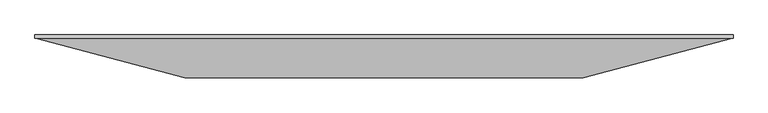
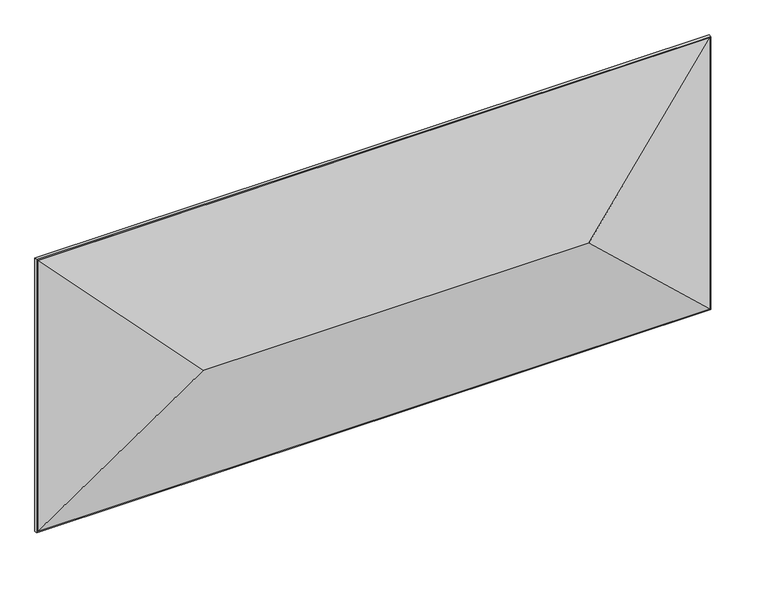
"""IFC4 building model written with IfcOpenShell, lengths in millimetres: proxy geometry, AERO^OFFICE 1_36x84 TABLE STYLE-WORKSURFACE."""

from ifc_helpers import new_model, si_unit, frame, origin, place, context, project, spatial, polyline, outline, extrude, faceted_brep, source, transform, mapped, element, save


def generic_models_ffb11fbf(model_context):
    return source(origin(), model_context, "Body", "SolidModel", [
        faceted_brep([(-1014.555968, 22.225, 404.955968), (-609.6, -86.2826246, 0.0), (-1014.555968, 22.225, -404.955968), (-609.6, -99.4306321, 0.0), (-1063.625, 22.225, 454.025), (-1063.625, 22.225, -454.025), (609.6, -86.2826246, 0.0), (1014.555968, 22.225, -404.955968), (1063.625, 22.225, -454.025), (609.6, -99.4306321, 0.0), (1014.555968, 22.225, 404.955968), (1063.625, 22.225, 454.025)], [[[0, 1, 2]], [[3, 4, 5]], [[1, 6, 7, 2]], [[8, 9, 3, 5]], [[6, 10, 7]], [[9, 8, 11]], [[4, 11, 8, 5], [0, 2, 7, 10]], [[9, 11, 4, 3]], [[10, 6, 1, 0]]]),
        extrude(outline(polyline([(1066.8, 22.225), (-1066.8, 22.225), (-1066.8, 31.75), (1066.8, 31.75), (1066.8, 22.225)])), frame((0.0, 0.0, -457.2), z_axis=(0.0, 0.0, 1.0), x_axis=(1.0, 0.0, 0.0)), (0.0, 0.0, 1.0), 914.4),
        extrude(outline(polyline([(1063.625, 22.225), (-1063.625, 22.225), (-1063.625, 31.75), (1063.625, 31.75), (1063.625, 22.225)])), frame((0.0, 0.0, -454.025), z_axis=(0.0, 0.0, 1.0), x_axis=(1.0, 0.0, 0.0)), (0.0, 0.0, 1.0), 908.05),
    ])


if __name__ == "__main__":
    model = new_model("IFC4")
    model_context = context("Model", 3, world=origin())
    ifc_project = project(units=[si_unit("LENGTHUNIT", "METRE", prefix="MILLI")], contexts=[model_context])
    site = spatial("IfcSite", under=ifc_project)
    building = spatial("IfcBuilding", under=site)
    placement = place(None, origin())
    generic_models_shape = generic_models_ffb11fbf(model_context)
    element("IfcBuildingElementProxy", 1, Name="AERO^OFFICE 1_36x84 TABLE STYLE-WORKSURFACE", ObjectType="AERO^OFFICE 1_36x84 TABLE STYLE-WORKSURFACE", at=placement, inside=building, context=model_context, shape_type="MappedRepresentation", body=[
        mapped(generic_models_shape, transform((0.0, 0.0, 0.0), x_axis=(1.0, 0.0, 0.0), y_axis=(0.0, 1.0, 0.0), z_axis=(0.0, 0.0, 1.0))),
    ])
    save(model, "model.ifc")
